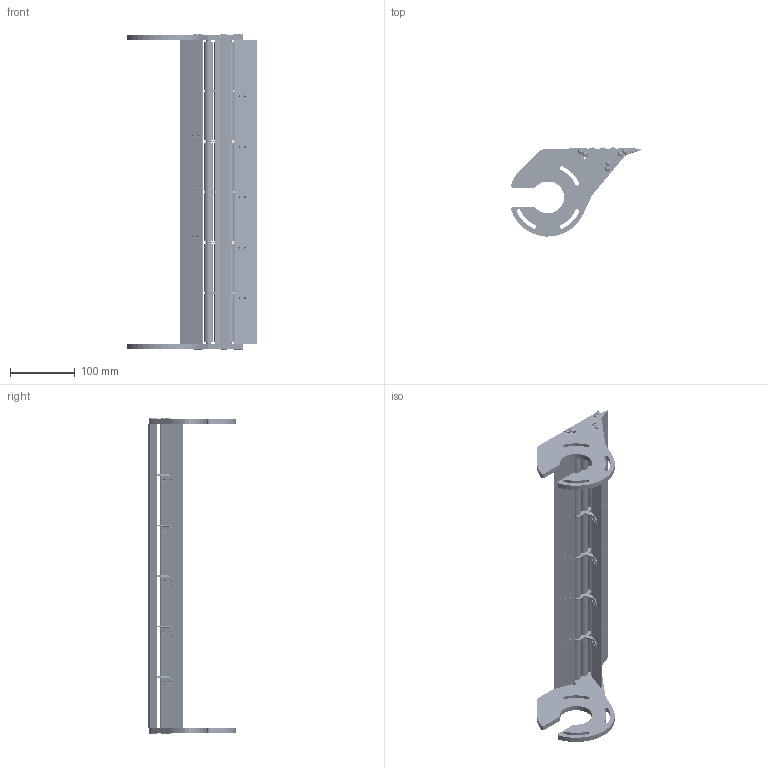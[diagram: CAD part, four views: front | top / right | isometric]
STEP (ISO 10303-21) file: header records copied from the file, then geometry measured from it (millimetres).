
FILE_DESCRIPTION (( 'STEP AP214' ), '1' );
FILE_NAME ('CAB 18 TGRI 2.STEP', '2024-02-27T08:06:06', ( '' ), ( '' ), 'SwSTEP 2.0', 'SolidWorks 2022', '' );
FILE_SCHEMA (( 'AUTOMOTIVE_DESIGN' ));
Length unit declared in the file: millimetre
Products named in the file (13): SA TGRI + ENTRETOISE; PT-F2 - CAB 18 ALU; AXE TGRI CAB 18; TBHC 4X16; GR CAB 18; Galet + roulement CAB 18; CAB 18 TGRI 2; SA TGRI; ENTRETOISE SA TGRI; PSTI CAB 2 Symétrie; ROULEMENT TGRI CAB FLEXTOO; ENTRETOISE TGRI CAB-F2-R-HEF; PSTI CAB 2
Assembly tree (56 placements, depth 3):
  CAB 18 TGRI 2
    PSTI CAB 2 Symétrie
    PSTI CAB 2
    PT-F2 - CAB 18 ALU  x3
    AXE TGRI CAB 18  x3
    ENTRETOISE TGRI CAB-F2-R-HEF  x6
    SA TGRI + ENTRETOISE  x5
      SA TGRI
      ENTRETOISE SA TGRI
    Galet + roulement CAB 18  x18
      GR CAB 18
      ROULEMENT TGRI CAB FLEXTOO
    TBHC 4X16  x12
Bounding box: 200.67 x 136.6 x 488.78 mm (x, y, z)
Volume: 775122.5 mm3; surface area: 352802.2 mm2
Topology: 100 solids, 100 shells, 3980 faces, 8814 edges, 5149 vertices
Faces by surface type: cone 1540, cylinder 1209, plane 614, torus 527, sphere 65, bspline 25
Entity records: 18105 total; most frequent: CARTESIAN_POINT 3364, DIRECTION 3240, ORIENTED_EDGE 2666, EDGE_CURVE 1333, AXIS2_PLACEMENT_3D 1322, VERTEX_POINT 807, CIRCLE 699, EDGE_LOOP 632
